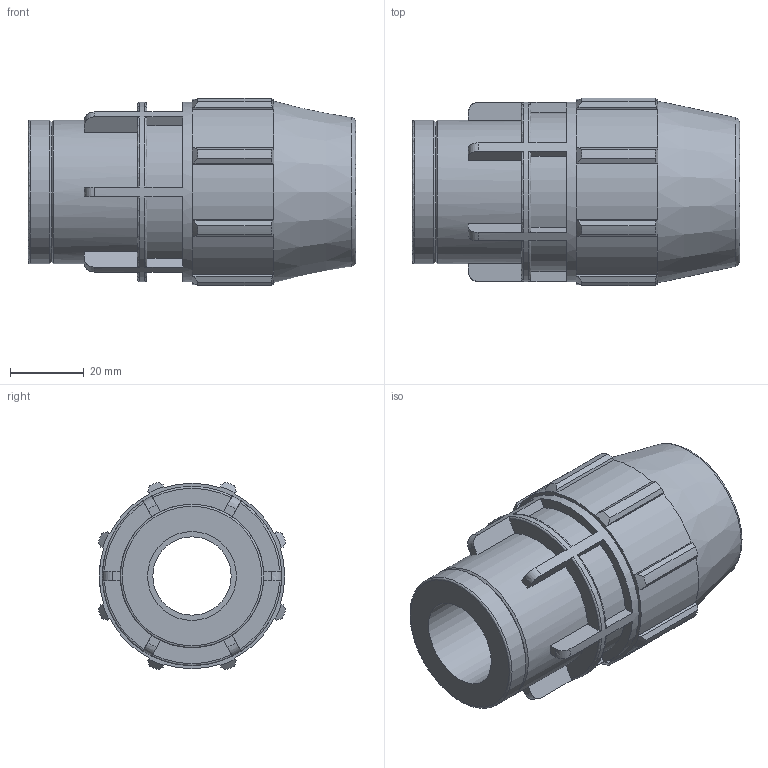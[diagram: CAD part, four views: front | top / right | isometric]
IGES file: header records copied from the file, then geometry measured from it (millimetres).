
Global section: file name: 0703M0007007.ipt; native system: Autodesk Inventor 2019; preprocessor: unknown; author: KIM; date: 20210826.124509; units: inch
Bounding box: 88.9 x 50.91 x 50.91 mm (x, y, z)
Volume: 92779.6 mm3; surface area: 24837.5 mm2
Topology: 1 solids, 1 shells, 148 faces, 413 edges, 277 vertices
Faces by surface type: plane 86, revolution 25, cylinder 25, cone 12
Full cylindrical faces by diameter (mm): 38.953 x2, 48.692 x1
